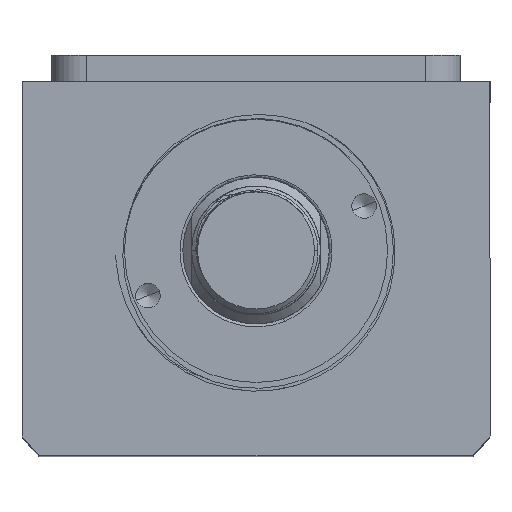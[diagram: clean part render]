
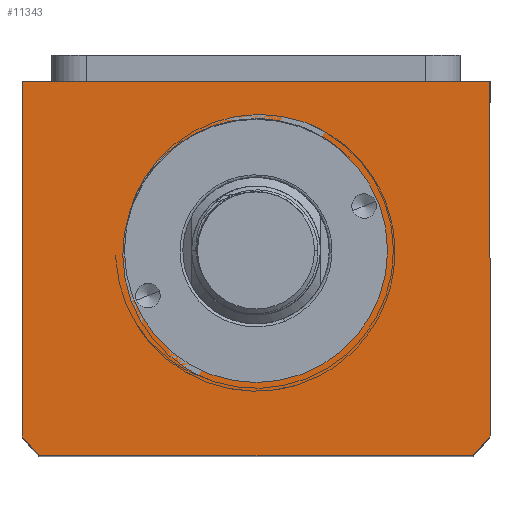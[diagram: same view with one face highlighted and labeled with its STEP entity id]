
A CAD part, top view. The second image highlights one B-rep face of the part: STEP entity #11343.
In plain terms, the highlighted planar face has unit normal (0, 0, 1).
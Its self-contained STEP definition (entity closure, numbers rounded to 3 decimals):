
#5 = VERTEX_POINT ( 'NONE', #10601 ) ;
#20 = VERTEX_POINT ( 'NONE', #859 ) ;
#28 = VERTEX_POINT ( 'NONE', #6312 ) ;
#117 = DIRECTION ( 'NONE',  ( 0., 0., 1. ) ) ;
#122 = DIRECTION ( 'NONE',  ( 0., 0., 1. ) ) ;
#177 = ORIENTED_EDGE ( 'NONE', *, *, #7960, .T. ) ;
#797 = CARTESIAN_POINT ( 'NONE',  ( 40., 32., 125. ) ) ;
#798 = DIRECTION ( 'NONE',  ( 1., 0., 0. ) ) ;
#800 = CARTESIAN_POINT ( 'NONE',  ( -40., 32., 125. ) ) ;
#859 = CARTESIAN_POINT ( 'NONE',  ( -40., -28.639, 125. ) ) ;
#1290 = CARTESIAN_POINT ( 'NONE',  ( -40., -32., 125. ) ) ;
#1521 = VERTEX_POINT ( 'NONE', #8332 ) ;
#1630 = DIRECTION ( 'NONE',  ( -1., 0., 0. ) ) ;
#1757 = ORIENTED_EDGE ( 'NONE', *, *, #10317, .T. ) ;
#2946 = EDGE_LOOP ( 'NONE', ( #11902, #4348, #1757, #13631, #11962, #177 ) ) ;
#3162 = CARTESIAN_POINT ( 'NONE',  ( -40., 32., 125. ) ) ;
#3329 = CARTESIAN_POINT ( 'NONE',  ( 40., -28.639, 125. ) ) ;
#3850 = EDGE_CURVE ( 'NONE', #4967, #5433, #7480, .T. ) ;
#3994 = LINE ( 'NONE', #12277, #13331 ) ;
#4183 = ORIENTED_EDGE ( 'NONE', *, *, #5692, .F. ) ;
#4324 = LINE ( 'NONE', #1290, #13508 ) ;
#4348 = ORIENTED_EDGE ( 'NONE', *, *, #12659, .T. ) ;
#4450 = VERTEX_POINT ( 'NONE', #800 ) ;
#4533 = LINE ( 'NONE', #3162, #9891 ) ;
#4967 = VERTEX_POINT ( 'NONE', #3329 ) ;
#5150 = CARTESIAN_POINT ( 'NONE',  ( 0., 3., 125. ) ) ;
#5401 = CIRCLE ( 'NONE', #10667, 22.5 ) ;
#5412 = AXIS2_PLACEMENT_3D ( 'NONE', #8258, #12523, #6147 ) ;
#5433 = VERTEX_POINT ( 'NONE', #797 ) ;
#5677 = CIRCLE ( 'NONE', #13433, 51. ) ;
#5692 = EDGE_CURVE ( 'NONE', #5, #6047, #5702, .T. ) ;
#5702 = CIRCLE ( 'NONE', #6789, 22.5 ) ;
#6047 = VERTEX_POINT ( 'NONE', #6092 ) ;
#6092 = CARTESIAN_POINT ( 'NONE',  ( -22.5, 3., 125. ) ) ;
#6147 = DIRECTION ( 'NONE',  ( 1., 0., 0. ) ) ;
#6247 = DIRECTION ( 'NONE',  ( 1., 0., 0. ) ) ;
#6312 = CARTESIAN_POINT ( 'NONE',  ( -37.094, -32., 125. ) ) ;
#6607 = CARTESIAN_POINT ( 'NONE',  ( 0., 3., 125. ) ) ;
#6613 = CARTESIAN_POINT ( 'NONE',  ( 0., 3., 125. ) ) ;
#6789 = AXIS2_PLACEMENT_3D ( 'NONE', #6607, #117, #7673 ) ;
#7081 = DIRECTION ( 'NONE',  ( 0., 1., 0. ) ) ;
#7271 = DIRECTION ( 'NONE',  ( 0., 0., 1. ) ) ;
#7480 = LINE ( 'NONE', #12398, #10308 ) ;
#7673 = DIRECTION ( 'NONE',  ( 1., 0., 0. ) ) ;
#7679 = DIRECTION ( 'NONE',  ( 1., 0., 0. ) ) ;
#7760 = DIRECTION ( 'NONE',  ( 1., 0., 0. ) ) ;
#7960 = EDGE_CURVE ( 'NONE', #5433, #4450, #3994, .T. ) ;
#8258 = CARTESIAN_POINT ( 'NONE',  ( 0., 0., 125. ) ) ;
#8332 = CARTESIAN_POINT ( 'NONE',  ( 37.094, -32., 125. ) ) ;
#8524 = FACE_BOUND ( 'NONE', #9493, .T. ) ;
#9071 = EDGE_CURVE ( 'NONE', #1521, #4967, #5677, .T. ) ;
#9493 = EDGE_LOOP ( 'NONE', ( #4183, #9968 ) ) ;
#9593 = DIRECTION ( 'NONE',  ( 0., -1., 0. ) ) ;
#9891 = VECTOR ( 'NONE', #9593, 1000. ) ;
#9968 = ORIENTED_EDGE ( 'NONE', *, *, #12642, .F. ) ;
#10308 = VECTOR ( 'NONE', #7081, 1000. ) ;
#10317 = EDGE_CURVE ( 'NONE', #28, #1521, #4324, .T. ) ;
#10601 = CARTESIAN_POINT ( 'NONE',  ( 22.5, 3., 125. ) ) ;
#10667 = AXIS2_PLACEMENT_3D ( 'NONE', #13651, #7271, #798 ) ;
#10752 = CIRCLE ( 'NONE', #13506, 51. ) ;
#11343 = ADVANCED_FACE ( 'NONE', ( #8524, #11348 ), #11468, .T. ) ;
#11348 = FACE_OUTER_BOUND ( 'NONE', #2946, .T. ) ;
#11468 = PLANE ( 'NONE',  #5412 ) ;
#11902 = ORIENTED_EDGE ( 'NONE', *, *, #13376, .T. ) ;
#11962 = ORIENTED_EDGE ( 'NONE', *, *, #3850, .T. ) ;
#12277 = CARTESIAN_POINT ( 'NONE',  ( -40., 32., 125. ) ) ;
#12398 = CARTESIAN_POINT ( 'NONE',  ( 40., 32., 125. ) ) ;
#12523 = DIRECTION ( 'NONE',  ( 0., 0., 1. ) ) ;
#12613 = DIRECTION ( 'NONE',  ( 0., 0., 1. ) ) ;
#12642 = EDGE_CURVE ( 'NONE', #6047, #5, #5401, .T. ) ;
#12659 = EDGE_CURVE ( 'NONE', #20, #28, #10752, .T. ) ;
#13331 = VECTOR ( 'NONE', #1630, 1000. ) ;
#13376 = EDGE_CURVE ( 'NONE', #4450, #20, #4533, .T. ) ;
#13433 = AXIS2_PLACEMENT_3D ( 'NONE', #6613, #122, #7679 ) ;
#13506 = AXIS2_PLACEMENT_3D ( 'NONE', #5150, #12613, #6247 ) ;
#13508 = VECTOR ( 'NONE', #7760, 1000. ) ;
#13631 = ORIENTED_EDGE ( 'NONE', *, *, #9071, .T. ) ;
#13651 = CARTESIAN_POINT ( 'NONE',  ( 0., 3., 125. ) ) ;
